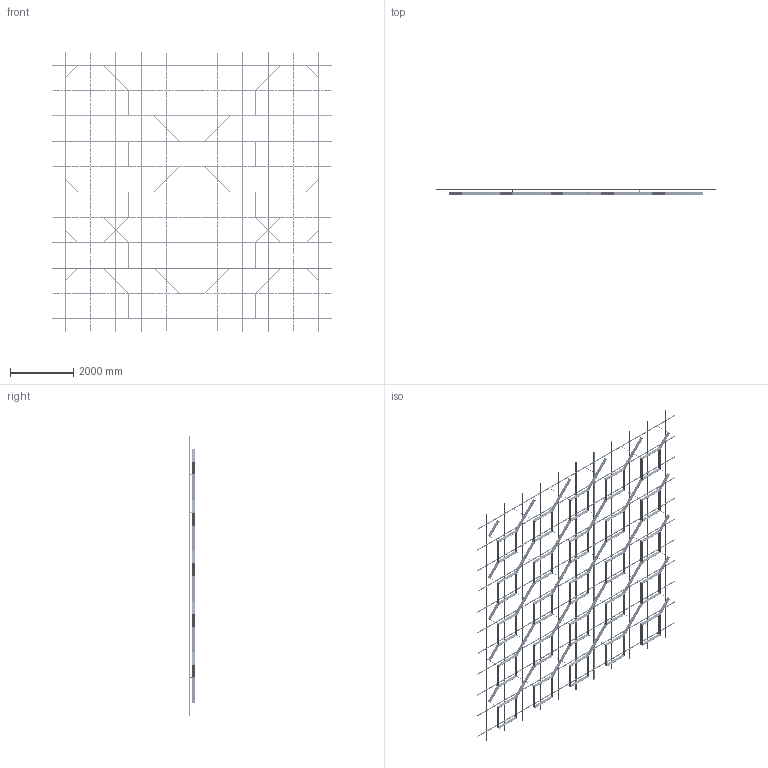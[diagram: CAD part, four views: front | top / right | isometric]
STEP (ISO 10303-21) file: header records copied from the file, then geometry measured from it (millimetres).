
FILE_DESCRIPTION (( 'STEP AP203' ), '1' );
FILE_NAME ('9 ìèäè ñ ïñ.step', '2025-11-26T11:35:02', ( '' ), ( '' ), 'SwSTEP 2.0', 'SolidWorks 2020', '' );
FILE_SCHEMA (( 'CONFIG_CONTROL_DESIGN' ));
Length unit declared in the file: millimetre
Products named in the file (5): SS.SEMA.2400 - Ñèìà-ïðîôèëü — îáðåçàí 1600; Var9; SS.SEMA.2400 - Ñèìà-ïðîôèëü; 9 ìèäè ñ ïñ; Ñèñòåìà â çîíå 8000õ8000
Assembly tree (90 placements, depth 3):
  9 ìèäè ñ ïñ
    Ñèñòåìà â çîíå 8000õ8000
      SS.SEMA.2400 - Ñèìà-ïðîôèëü  x66
      SS.SEMA.2400 - Ñèìà-ïðîôèëü — îáðåçàí 1600  x22
    Var9
Bounding box: 8800 x 205 x 8800 mm (x, y, z)
Volume: 127397600.6 mm3; surface area: 57847833.3 mm2
Topology: 848 solids, 848 shells, 19940 faces, 53324 edges, 35080 vertices
Faces by surface type: cylinder 12978, plane 6962
Entity records: 94031 total; most frequent: CARTESIAN_POINT 21834, DIRECTION 13714, ORIENTED_EDGE 13496, EDGE_CURVE 6748, AXIS2_PLACEMENT_3D 6608, VERTEX_POINT 4488, EDGE_LOOP 3946, ADVANCED_FACE 3784
